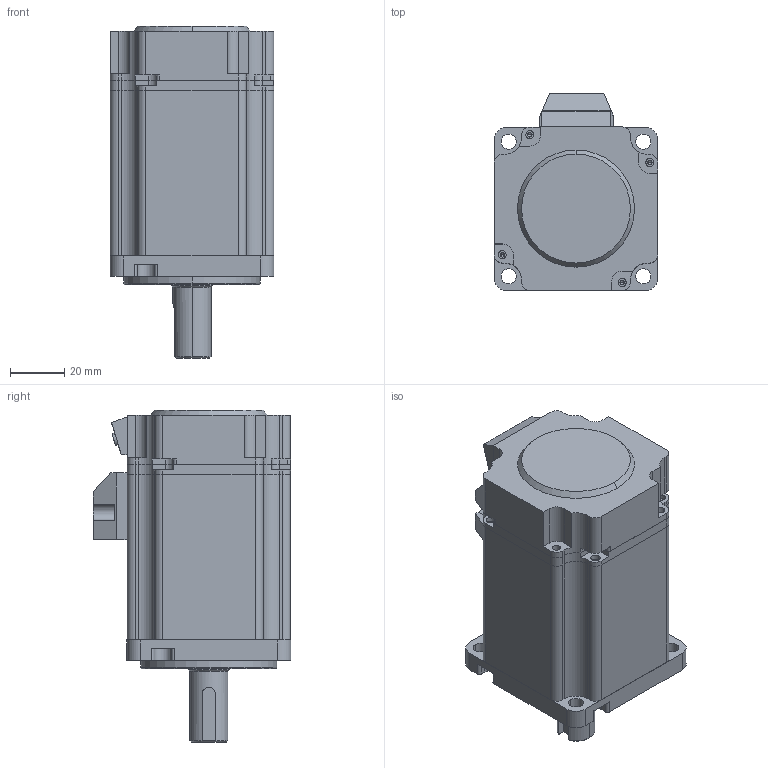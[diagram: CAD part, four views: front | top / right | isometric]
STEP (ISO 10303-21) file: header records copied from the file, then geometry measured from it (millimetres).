
FILE_DESCRIPTION (( 'STEP AP203' ), '1' );
FILE_NAME ('60A1ST-R01330LBX.STEP', '2023-05-06T06:53:20', ( '' ), ( '' ), 'SwSTEP 2.0', 'SolidWorks 2018', '' );
FILE_SCHEMA (( 'CONFIG_CONTROL_DESIGN' ));
Length unit declared in the file: millimetre
Products named in the file (8): 60A1ST-R01330LBX; 200w蛌粣 ; 雄薯盄揤啣; 1.27nm儂褲; 梓饜綴裔; 正确前盖; 情遴綴欶; 蚐猾
Assembly tree (7 placements, depth 2):
  60A1ST-R01330LBX
    200w蛌粣 
    情遴綴欶
    梓饜綴裔
    雄薯盄揤啣
    蚐猾
    正确前盖
    1.27nm儂褲
Bounding box: 60.2 x 72.6 x 122 mm (x, y, z)
Volume: 113838.2 mm3; surface area: 75771.9 mm2
Topology: 7 solids, 7 shells, 595 faces, 1551 edges, 994 vertices
Faces by surface type: cylinder 294, plane 222, cone 61, torus 18
Entity records: 19443 total; most frequent: CARTESIAN_POINT 3444, DIRECTION 3357, ORIENTED_EDGE 3034, EDGE_CURVE 1517, AXIS2_PLACEMENT_3D 1267, VERTEX_POINT 990, VECTOR 823, LINE 823
